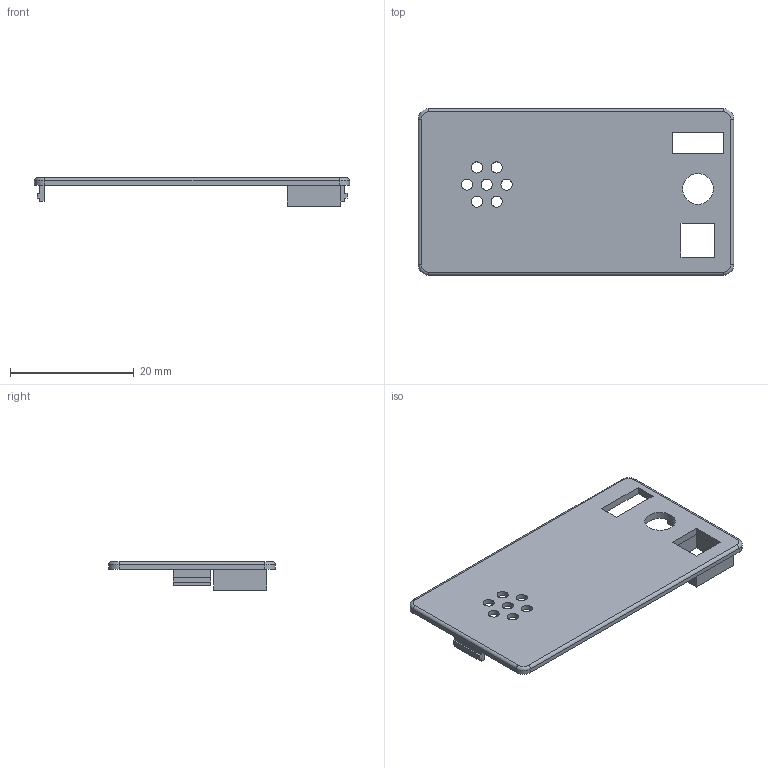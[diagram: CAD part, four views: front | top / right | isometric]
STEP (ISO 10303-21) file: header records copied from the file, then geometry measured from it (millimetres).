
FILE_DESCRIPTION(('Open CASCADE Model'),'2;1');
FILE_NAME('Open CASCADE Shape Model','2026-11-03T19:16:51',('Author'),( 'Open CASCADE'),'Open CASCADE STEP processor 7.9','Open CASCADE 7.9' ,'Unknown');
FILE_SCHEMA(('AUTOMOTIVE_DESIGN { 1 0 10303 214 1 1 1 1 }'));
Length unit declared in the file: millimetre
Products named in the file (1): Open CASCADE STEP translator 7.9 2
Bounding box: 51.06 x 26.96 x 4.6 mm (x, y, z)
Volume: 1597.3 mm3; surface area: 3120 mm2
Topology: 1 solids, 1 shells, 64 faces, 163 edges, 106 vertices
Faces by surface type: plane 43, cylinder 17, torus 4
Full cylindrical faces by diameter (mm): 1.8 x7, 5 x1, 12.4 x1
Entity records: 4084 total; most frequent: CARTESIAN_POINT 828, DIRECTION 579, LINE 365, VECTOR 365, ORIENTED_EDGE 326, PCURVE 326, DEFINITIONAL_REPRESENTATION 326, EDGE_CURVE 163
